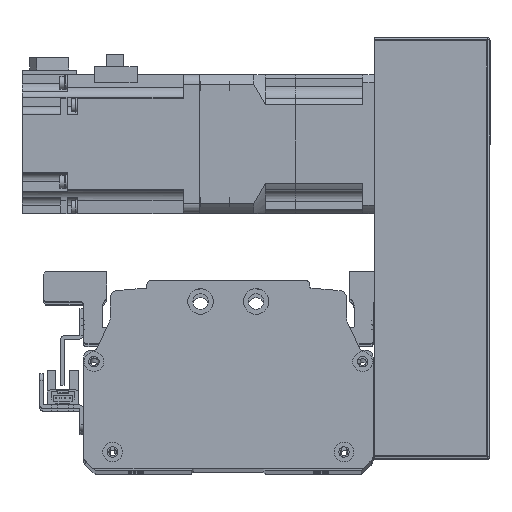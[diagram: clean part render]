
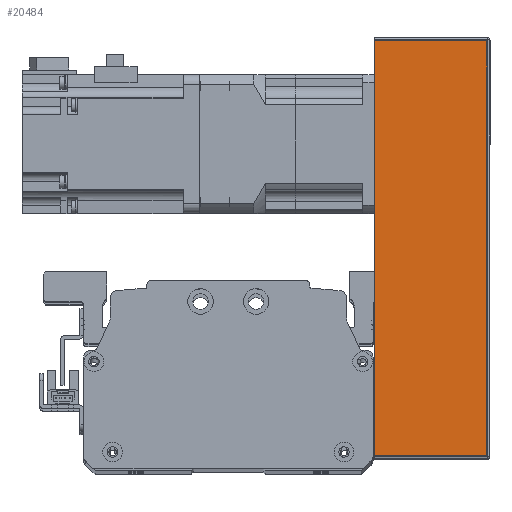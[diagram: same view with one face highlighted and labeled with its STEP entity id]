
A CAD part, top view. The second image highlights one B-rep face of the part: STEP entity #20484.
In plain terms, the highlighted planar face has unit normal (0, 0, 1) as drawn and (0, -1, 0) by its records, which use the part's own axes.
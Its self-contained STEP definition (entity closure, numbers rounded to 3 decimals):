
#563=PLANE('',#22471);
#1778=LINE('',#33384,#3402);
#1792=LINE('',#33436,#3416);
#1794=LINE('',#33444,#3418);
#1795=LINE('',#33446,#3419);
#3402=VECTOR('',#27121,10.);
#3416=VECTOR('',#27181,10.);
#3418=VECTOR('',#27195,10.);
#3419=VECTOR('',#27198,10.);
#5780=FACE_OUTER_BOUND('',#7228,.T.);
#7228=EDGE_LOOP('',(#17036,#17037,#17038,#17039));
#10088=VERTEX_POINT('',#33381);
#10089=VERTEX_POINT('',#33383);
#10103=VERTEX_POINT('',#33431);
#10104=VERTEX_POINT('',#33434);
#12528=EDGE_CURVE('',#10089,#10088,#1778,.T.);
#12556=EDGE_CURVE('',#10103,#10104,#1792,.T.);
#12560=EDGE_CURVE('',#10104,#10089,#1794,.T.);
#12561=EDGE_CURVE('',#10088,#10103,#1795,.T.);
#17036=ORIENTED_EDGE('',*,*,#12556,.T.);
#17037=ORIENTED_EDGE('',*,*,#12560,.T.);
#17038=ORIENTED_EDGE('',*,*,#12528,.T.);
#17039=ORIENTED_EDGE('',*,*,#12561,.T.);
#20484=ADVANCED_FACE('',(#5780),#563,.F.);
#22471=AXIS2_PLACEMENT_3D('',#33445,#27196,#27197);
#27121=DIRECTION('',(1.,0.,0.));
#27181=DIRECTION('',(-1.,0.,0.));
#27195=DIRECTION('',(0.,0.,-1.));
#27196=DIRECTION('center_axis',(0.,1.,0.));
#27197=DIRECTION('ref_axis',(1.,0.,0.));
#27198=DIRECTION('',(0.,0.,1.));
#33381=CARTESIAN_POINT('',(90.,-38.,-25.));
#33383=CARTESIAN_POINT('',(-90.,-38.,-25.));
#33384=CARTESIAN_POINT('',(91.,-38.,-25.));
#33431=CARTESIAN_POINT('',(90.,-38.,24.));
#33434=CARTESIAN_POINT('',(-90.,-38.,24.));
#33436=CARTESIAN_POINT('',(-45.5,-38.,24.));
#33444=CARTESIAN_POINT('',(-90.,-38.,0.));
#33445=CARTESIAN_POINT('Origin',(-91.,-38.,0.));
#33446=CARTESIAN_POINT('',(90.,-38.,0.));
